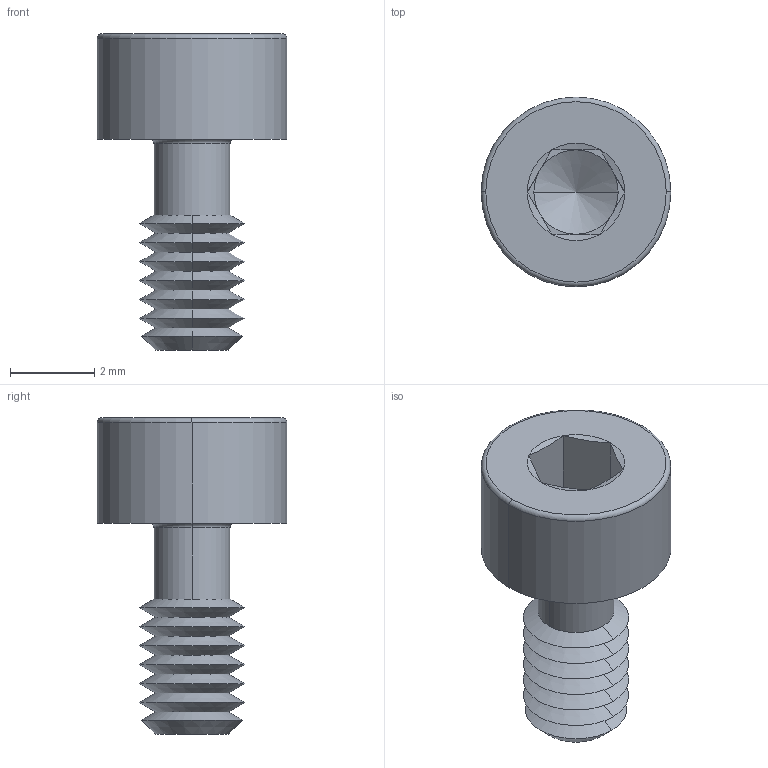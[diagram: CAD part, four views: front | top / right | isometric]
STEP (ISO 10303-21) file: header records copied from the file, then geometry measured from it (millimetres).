
FILE_DESCRIPTION (( 'STEP AP203' ), '1' );
FILE_NAME ('P0154.025-005-BL.step', '2024-06-17T11:21:01', ( '' ), ( '' ), 'SwSTEP 2.0', 'SolidWorks 2019', '' );
FILE_SCHEMA (( 'CONFIG_CONTROL_DESIGN' ));
Length unit declared in the file: millimetre
Products named in the file (1): P0154.025-005-BL
Bounding box: 4.5 x 4.5 x 7.5 mm (x, y, z)
Volume: 48 mm3; surface area: 131.5 mm2
Topology: 1 solids, 1 shells, 59 faces, 120 edges, 63 vertices
Faces by surface type: cone 36, plane 15, torus 4, cylinder 4
Entity records: 1587 total; most frequent: DIRECTION 292, CARTESIAN_POINT 267, ORIENTED_EDGE 236, AXIS2_PLACEMENT_3D 120, EDGE_CURVE 118, VERTEX_POINT 63, EDGE_LOOP 61, CIRCLE 60
